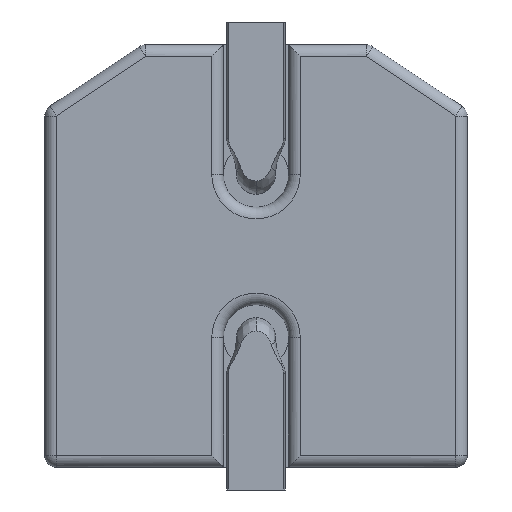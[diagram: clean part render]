
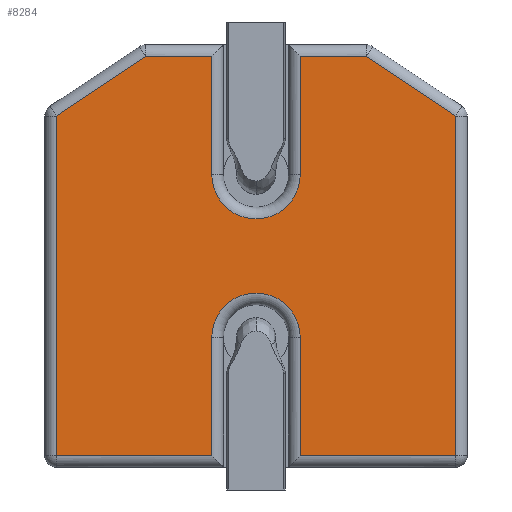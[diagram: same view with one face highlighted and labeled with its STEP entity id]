
A CAD part, left-side view. The second image highlights one B-rep face of the part: STEP entity #8284.
In plain terms, the highlighted planar face has unit normal (-1, 0, 0) as drawn and (0, -1, 0) by its records, which use the part's own axes.
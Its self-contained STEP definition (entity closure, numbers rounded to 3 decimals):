
#6859=DIRECTION('',(-0.832,0.,0.555));
#6860=VECTOR('',#6859,1.652);
#6861=CARTESIAN_POINT('',(3.07,0.,2.154));
#6862=LINE('',#6861,#6860);
#6863=DIRECTION('',(0.,0.,1.));
#6864=VECTOR('',#6863,5.224);
#6865=CARTESIAN_POINT('',(3.07,0.,-3.07));
#6866=LINE('',#6865,#6864);
#6867=DIRECTION('',(1.,0.,0.));
#6868=VECTOR('',#6867,2.39);
#6869=CARTESIAN_POINT('',(0.68,0.,-3.07));
#6870=LINE('',#6869,#6868);
#6871=DIRECTION('',(0.,0.,-1.));
#6872=VECTOR('',#6871,1.82);
#6873=CARTESIAN_POINT('',(0.68,0.,-1.25));
#6874=LINE('',#6873,#6872);
#6875=DIRECTION('',(0.,0.,1.));
#6876=VECTOR('',#6875,1.82);
#6877=CARTESIAN_POINT('',(-0.68,0.,-3.07));
#6878=LINE('',#6877,#6876);
#6879=DIRECTION('',(1.,0.,0.));
#6880=VECTOR('',#6879,2.39);
#6881=CARTESIAN_POINT('',(-3.07,0.,-3.07));
#6882=LINE('',#6881,#6880);
#6883=DIRECTION('',(0.,0.,-1.));
#6884=VECTOR('',#6883,5.224);
#6885=CARTESIAN_POINT('',(-3.07,0.,2.154));
#6886=LINE('',#6885,#6884);
#6887=DIRECTION('',(0.832,0.,0.555));
#6888=VECTOR('',#6887,1.652);
#6889=CARTESIAN_POINT('',(-3.07,0.,2.154));
#6890=LINE('',#6889,#6888);
#6891=DIRECTION('',(-1.,0.,0.));
#6892=VECTOR('',#6891,1.016);
#6893=CARTESIAN_POINT('',(-0.68,0.,3.07));
#6894=LINE('',#6893,#6892);
#6895=DIRECTION('',(0.,0.,1.));
#6896=VECTOR('',#6895,1.82);
#6897=CARTESIAN_POINT('',(-0.68,0.,1.25));
#6898=LINE('',#6897,#6896);
#6899=DIRECTION('',(0.,0.,-1.));
#6900=VECTOR('',#6899,1.82);
#6901=CARTESIAN_POINT('',(0.68,0.,3.07));
#6902=LINE('',#6901,#6900);
#6903=DIRECTION('',(-1.,0.,0.));
#6904=VECTOR('',#6903,1.016);
#6905=CARTESIAN_POINT('',(1.696,0.,3.07));
#6906=LINE('',#6905,#6904);
#6937=CARTESIAN_POINT('',(0.68,0.,3.07));
#6939=CARTESIAN_POINT('',(0.,0.,1.25));
#6940=DIRECTION('',(0.,1.,0.));
#6941=DIRECTION('',(1.,0.,0.));
#6942=AXIS2_PLACEMENT_3D('',#6939,#6940,#6941);
#7021=CARTESIAN_POINT('',(-0.68,0.,-3.07));
#7023=CARTESIAN_POINT('',(0.,0.,-1.25));
#7024=DIRECTION('',(0.,1.,0.));
#7025=DIRECTION('',(-1.,0.,0.));
#7026=AXIS2_PLACEMENT_3D('',#7023,#7024,#7025);
#7043=CARTESIAN_POINT('',(0.68,0.,-3.07));
#8071=CARTESIAN_POINT('',(-3.07,0.,-3.07));
#8073=VERTEX_POINT('',#8071);
#8082=VERTEX_POINT('',#7021);
#8083=CARTESIAN_POINT('',(3.07,0.,-3.07));
#8085=VERTEX_POINT('',#8083);
#8088=VERTEX_POINT('',#7043);
#8107=CARTESIAN_POINT('',(1.696,0.,3.07));
#8109=VERTEX_POINT('',#8107);
#8122=VERTEX_POINT('',#6937);
#8124=CARTESIAN_POINT('',(-1.696,0.,3.07));
#8126=VERTEX_POINT('',#8124);
#8167=CARTESIAN_POINT('',(3.07,0.,2.154));
#8168=VERTEX_POINT('',#8167);
#8169=CARTESIAN_POINT('',(-0.68,0.,3.07));
#8170=VERTEX_POINT('',#8169);
#8217=CARTESIAN_POINT('',(-0.68,0.,-1.25));
#8218=VERTEX_POINT('',#8217);
#8225=CARTESIAN_POINT('',(0.68,0.,-1.25));
#8226=VERTEX_POINT('',#8225);
#8229=CARTESIAN_POINT('',(-3.07,0.,2.154));
#8230=VERTEX_POINT('',#8229);
#8235=CARTESIAN_POINT('',(0.68,0.,1.25));
#8236=VERTEX_POINT('',#8235);
#8243=CARTESIAN_POINT('',(-0.68,0.,1.25));
#8244=VERTEX_POINT('',#8243);
#8249=CARTESIAN_POINT('',(0.,0.,0.));
#8250=DIRECTION('',(0.,1.,0.));
#8251=DIRECTION('',(0.,0.,1.));
#8252=AXIS2_PLACEMENT_3D('',#8249,#8250,#8251);
#8253=PLANE('',#8252);
#8255=ORIENTED_EDGE('',*,*,#8254,.F.);
#8257=ORIENTED_EDGE('',*,*,#8256,.F.);
#8259=ORIENTED_EDGE('',*,*,#8258,.F.);
#8261=ORIENTED_EDGE('',*,*,#8260,.F.);
#8263=ORIENTED_EDGE('',*,*,#8262,.F.);
#8265=ORIENTED_EDGE('',*,*,#8264,.F.);
#8267=ORIENTED_EDGE('',*,*,#8266,.F.);
#8269=ORIENTED_EDGE('',*,*,#8268,.F.);
#8271=ORIENTED_EDGE('',*,*,#8270,.T.);
#8273=ORIENTED_EDGE('',*,*,#8272,.F.);
#8275=ORIENTED_EDGE('',*,*,#8274,.F.);
#8277=ORIENTED_EDGE('',*,*,#8276,.F.);
#8279=ORIENTED_EDGE('',*,*,#8278,.F.);
#8281=ORIENTED_EDGE('',*,*,#8280,.F.);
#8282=EDGE_LOOP('',(#8255,#8257,#8259,#8261,#8263,#8265,#8267,#8269,#8271,#8273,
#8275,#8277,#8279,#8281));
#8283=FACE_OUTER_BOUND('',#8282,.F.);
#8284=ADVANCED_FACE('',(#8283),#8253,.F.);
#6943=CIRCLE('',#6942,0.68);
#7027=CIRCLE('',#7026,0.68);
#8254=EDGE_CURVE('',#8168,#8109,#6862,.T.);
#8256=EDGE_CURVE('',#8085,#8168,#6866,.T.);
#8258=EDGE_CURVE('',#8088,#8085,#6870,.T.);
#8260=EDGE_CURVE('',#8226,#8088,#6874,.T.);
#8262=EDGE_CURVE('',#8218,#8226,#7027,.T.);
#8264=EDGE_CURVE('',#8082,#8218,#6878,.T.);
#8266=EDGE_CURVE('',#8073,#8082,#6882,.T.);
#8268=EDGE_CURVE('',#8230,#8073,#6886,.T.);
#8270=EDGE_CURVE('',#8230,#8126,#6890,.T.);
#8272=EDGE_CURVE('',#8170,#8126,#6894,.T.);
#8274=EDGE_CURVE('',#8244,#8170,#6898,.T.);
#8276=EDGE_CURVE('',#8236,#8244,#6943,.T.);
#8278=EDGE_CURVE('',#8122,#8236,#6902,.T.);
#8280=EDGE_CURVE('',#8109,#8122,#6906,.T.);
